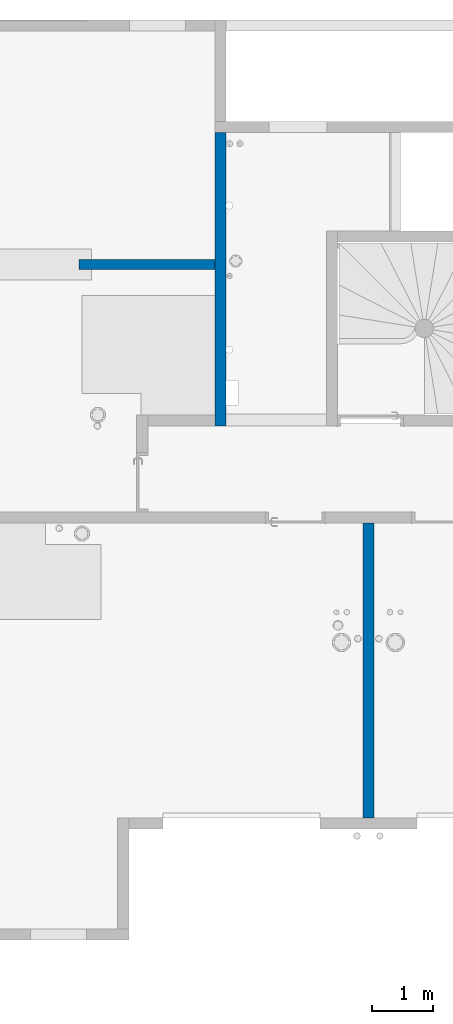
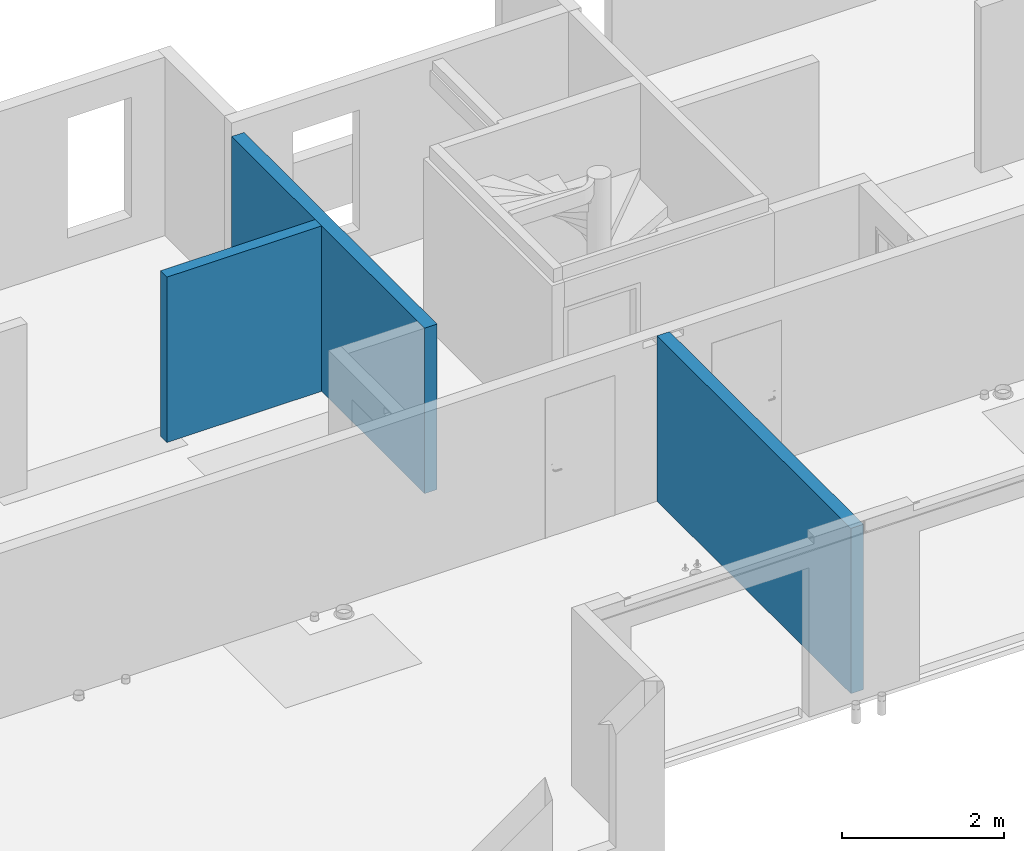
# One storey, part 7 of 24: 3 walls.
"""IFC2X3 building model written with IfcOpenShell, lengths in centimetres."""

from ifc_helpers import new_model, entity, si_unit, converted_unit, derived_unit, direction, frame, frame_2d, origin, place, context, subcontext, project, spatial, rectangle, extrude, material, layer, layer_set, layer_usage, type_object, element, save


model = new_model("IFC2X3")

# Units and contexts
model_context = context("Model", 3, precision=0.001, world=origin(), true_north=direction((6.12303176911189e-17, 1.0)))
body_context = subcontext(model_context, "Body", "Model", "MODEL_VIEW")
ifc_project = project(units=[si_unit("LENGTHUNIT", "METRE", prefix="CENTI"), si_unit("AREAUNIT", "SQUARE_METRE"), si_unit("VOLUMEUNIT", "CUBIC_METRE"), converted_unit("PLANEANGLEUNIT", "DEGREE", entity("IfcRatioMeasure", 0.0174532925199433), si_unit("PLANEANGLEUNIT", "RADIAN"), dimensions=[0, 0, 0, 0, 0, 0, 0]), si_unit("MASSUNIT", "GRAM", prefix="KILO"), derived_unit("MASSDENSITYUNIT", [(si_unit("MASSUNIT", "GRAM", prefix="KILO"), 1), (si_unit("LENGTHUNIT", "METRE"), -3)]), si_unit("TIMEUNIT", "SECOND"), si_unit("FREQUENCYUNIT", "HERTZ"), si_unit("THERMODYNAMICTEMPERATUREUNIT", "DEGREE_CELSIUS"), derived_unit("THERMALTRANSMITTANCEUNIT", [(si_unit("MASSUNIT", "GRAM", prefix="KILO"), 1), (si_unit("THERMODYNAMICTEMPERATUREUNIT", "KELVIN"), -1), (si_unit("TIMEUNIT", "SECOND"), -3)]), derived_unit("VOLUMETRICFLOWRATEUNIT", [(si_unit("LENGTHUNIT", "METRE"), 3), (si_unit("TIMEUNIT", "SECOND"), -1)]), si_unit("ELECTRICCURRENTUNIT", "AMPERE"), si_unit("ELECTRICVOLTAGEUNIT", "VOLT"), si_unit("POWERUNIT", "WATT"), si_unit("FORCEUNIT", "NEWTON"), si_unit("ILLUMINANCEUNIT", "LUX"), si_unit("LUMINOUSFLUXUNIT", "LUMEN"), si_unit("LUMINOUSINTENSITYUNIT", "CANDELA"), derived_unit("USERDEFINED", [(si_unit("MASSUNIT", "GRAM", prefix="KILO"), -1), (si_unit("LENGTHUNIT", "METRE"), -2), (si_unit("TIMEUNIT", "SECOND"), 3), (si_unit("LUMINOUSFLUXUNIT", "LUMEN"), 1)]), derived_unit("LINEARVELOCITYUNIT", [(si_unit("LENGTHUNIT", "METRE"), 1), (si_unit("TIMEUNIT", "SECOND"), -1)]), si_unit("PRESSUREUNIT", "PASCAL"), derived_unit("USERDEFINED", [(si_unit("LENGTHUNIT", "METRE"), -2), (si_unit("MASSUNIT", "GRAM", prefix="KILO"), 1), (si_unit("TIMEUNIT", "SECOND"), -2)])], contexts=[model_context])

# Site, building, storey
site_placement = place(None, origin())
site = spatial("IfcSite", under=ifc_project, at=site_placement, Name="Default", CompositionType="ELEMENT")
building_placement = place(site_placement, origin())
building = spatial("IfcBuilding", under=site, at=building_placement, Name="CAGE 03", CompositionType="ELEMENT")
storey_placement = place(building_placement, frame((0.0, 0.0, 1150.0)))
storey = spatial("IfcBuildingStorey", under=building, at=storey_placement, Name="R+4", CompositionType="ELEMENT", Elevation=1150.0)

# Walls
ifc_material = material(Name="Béton, C25/30")
ifc_layer_1 = layer(ifc_material, 18.0)
ifc_layer_set_1 = layer_set([ifc_layer_1], Name="Mur de base:Voile BA 18")
ifc_layer_usage_1 = layer_usage(ifc_layer_set_1, "AXIS2", "POSITIVE", -9.0)
wall_type_1 = type_object("IfcWallType", Name="Mur de base:Voile BA 18", PredefinedType="STANDARD", material=ifc_layer_set_1)
wall_1_placement = place(storey_placement, frame((7081.36582014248, 4474.6606660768, 0.0), z_axis=(0.0, 0.0, 1.0), x_axis=(0.0, -1.0, 0.0)))
element("IfcWallStandardCase", 1, at=wall_1_placement, inside=storey, type_object=wall_type_1, material=ifc_layer_usage_1, Name="Mur de base:Voile BA 18", ObjectType="Mur de base:Voile BA 18", context=body_context, shape_type="SweptSolid", body=[
    extrude(rectangle(XDim=480.000000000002, YDim=17.9999999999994, at=frame_2d((240.000000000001, 0.0), x_axis=(-1.0, 0.0))), origin(), (0.0, 0.0, 1.0), 250.0),
])
ifc_layer_usage_2 = layer_usage(ifc_layer_set_1, "AXIS2", "NEGATIVE", 9.0)
wall_2_placement = place(storey_placement, frame((6840.36582014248, 5110.6606660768, 0.0), z_axis=(0.0, 0.0, 1.0), x_axis=(0.0, -1.0, 0.0)))
element("IfcWallStandardCase", 2, at=wall_2_placement, inside=storey, type_object=wall_type_1, material=ifc_layer_usage_2, Name="Mur de base:Voile BA 18", ObjectType="Mur de base:Voile BA 18", context=body_context, shape_type="SweptSolid", body=[
    extrude(rectangle(XDim=478.0, YDim=17.9999999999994, at=frame_2d((239.0, 1.67865721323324e-13), x_axis=(-1.0, 0.0))), origin(), (0.0, 0.0, 1.0), 250.0),
])
ifc_layer_2 = layer(ifc_material, 16.0)
ifc_layer_set_2 = layer_set([ifc_layer_2], Name="Mur de base:Voile BA 16")
ifc_layer_usage_3 = layer_usage(ifc_layer_set_2, "AXIS2", "NEGATIVE", 8.0)
wall_type_2 = type_object("IfcWallType", Name="Mur de base:Voile BA 16", PredefinedType="STANDARD", material=ifc_layer_set_2)
wall_3_placement = place(storey_placement, frame((6831.36582014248, 4895.6606660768, 0.0), z_axis=(0.0, 0.0, 1.0), x_axis=(-1.0, 0.0, 0.0)))
element("IfcWallStandardCase", 3, at=wall_3_placement, inside=storey, type_object=wall_type_2, material=ifc_layer_usage_3, Name="Mur de base:Voile BA 16", ObjectType="Mur de base:Voile BA 16", context=body_context, shape_type="SweptSolid", body=[
    extrude(rectangle(XDim=220.999999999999, YDim=15.9999999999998, at=frame_2d((110.5, -8.97060203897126e-14), x_axis=(-1.0, 0.0))), origin(), (0.0, 0.0, 1.0), 250.0),
])

save(model, "model.ifc")
